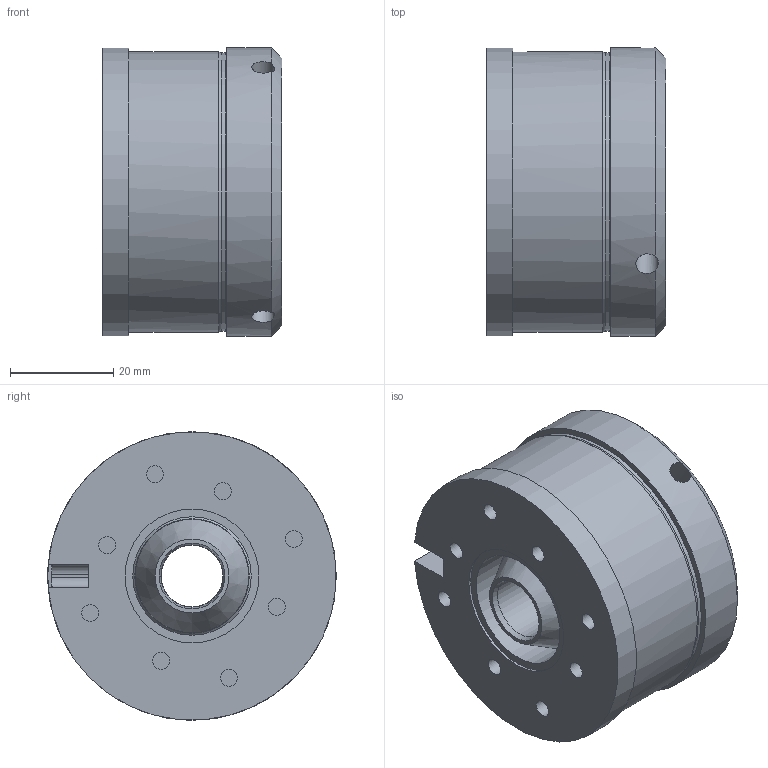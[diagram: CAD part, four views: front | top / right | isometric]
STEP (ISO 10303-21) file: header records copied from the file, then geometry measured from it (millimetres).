
FILE_DESCRIPTION (( 'STEP AP214' ), '1' );
FILE_NAME ('86 61105P00-0001_Index g.STEP', '2020-02-10T07:50:13', ( '' ), ( '' ), 'SwSTEP 2.0', 'SolidWorks 2018', '' );
FILE_SCHEMA (( 'AUTOMOTIVE_DESIGN' ));
Length unit declared in the file: millimetre
Products named in the file (1): 86 61105P00-0001_Index g
Bounding box: 34.85 x 56 x 56 mm (x, y, z)
Volume: 73635.1 mm3; surface area: 20804 mm2
Topology: 2 solids, 2 shells, 63 faces, 126 edges, 80 vertices
Faces by surface type: cylinder 28, plane 25, cone 6, torus 4
Full cylindrical faces by diameter (mm): 3.3 x11, 4.4 x3, 12 x1, 12.2 x1, 22 x2, 23 x1, 26 x1, 28 x1, 40.2 x1, 54 x1, 54.5 x1, 56 x1
Entity records: 1934 total; most frequent: CARTESIAN_POINT 574, DIRECTION 262, ORIENTED_EDGE 172, AXIS2_PLACEMENT_3D 123, EDGE_LOOP 121, FACE_OUTER_BOUND 92, EDGE_CURVE 86, VERTEX_POINT 75
